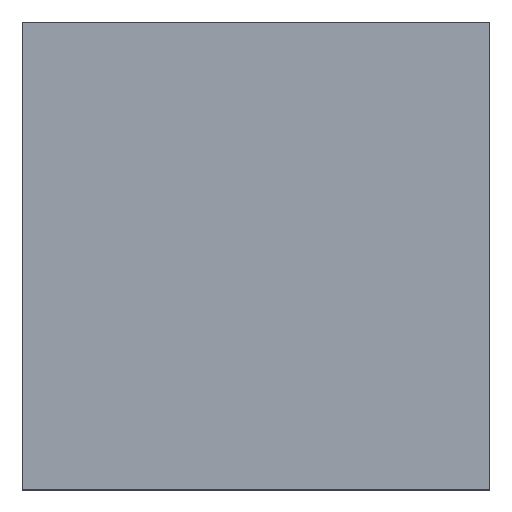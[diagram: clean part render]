
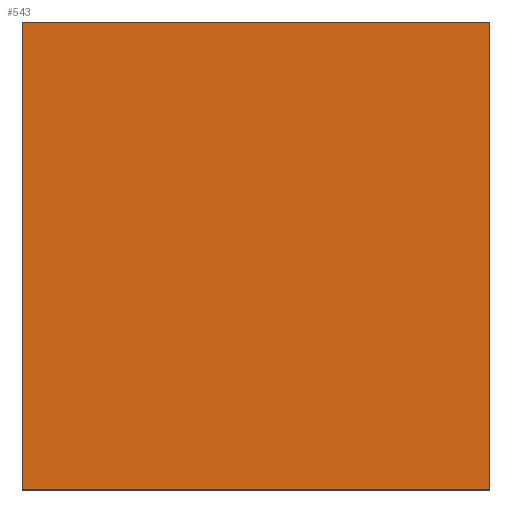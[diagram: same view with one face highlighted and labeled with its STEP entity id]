
A CAD part, top view. The second image highlights one B-rep face of the part: STEP entity #543.
In plain terms, the highlighted planar face has unit normal (0, 0, 1) as drawn and (0, 1, 0) by its records, which use the part's own axes.
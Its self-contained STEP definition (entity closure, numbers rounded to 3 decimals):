
#71=FACE_OUTER_BOUND('',#101,.T.);
#101=EDGE_LOOP('',(#417,#418,#419,#420));
#148=LINE('',#915,#204);
#149=LINE('',#918,#205);
#150=LINE('',#920,#206);
#151=LINE('',#921,#207);
#204=VECTOR('',#749,10.);
#205=VECTOR('',#752,10.);
#206=VECTOR('',#753,10.);
#207=VECTOR('',#754,10.);
#256=VERTEX_POINT('',#909);
#258=VERTEX_POINT('',#913);
#259=VERTEX_POINT('',#917);
#260=VERTEX_POINT('',#919);
#318=EDGE_CURVE('',#256,#258,#148,.T.);
#319=EDGE_CURVE('',#256,#259,#149,.T.);
#320=EDGE_CURVE('',#260,#258,#150,.T.);
#321=EDGE_CURVE('',#259,#260,#151,.T.);
#417=ORIENTED_EDGE('',*,*,#319,.F.);
#418=ORIENTED_EDGE('',*,*,#318,.T.);
#419=ORIENTED_EDGE('',*,*,#320,.F.);
#420=ORIENTED_EDGE('',*,*,#321,.F.);
#516=PLANE('',#651);
#543=ADVANCED_FACE('',(#71),#516,.T.);
#651=AXIS2_PLACEMENT_3D('',#916,#750,#751);
#749=DIRECTION('',(0.,0.,-1.));
#750=DIRECTION('center_axis',(0.,1.,0.));
#751=DIRECTION('ref_axis',(1.,0.,0.));
#752=DIRECTION('',(-1.,0.,0.));
#753=DIRECTION('',(1.,0.,0.));
#754=DIRECTION('',(0.,0.,-1.));
#909=CARTESIAN_POINT('',(20.,20.,0.));
#913=CARTESIAN_POINT('',(20.,20.,-40.));
#915=CARTESIAN_POINT('',(20.,20.,0.));
#916=CARTESIAN_POINT('Origin',(-20.,20.,0.));
#917=CARTESIAN_POINT('',(-20.,20.,0.));
#918=CARTESIAN_POINT('',(20.,20.,0.));
#919=CARTESIAN_POINT('',(-20.,20.,-40.));
#920=CARTESIAN_POINT('',(20.,20.,-40.));
#921=CARTESIAN_POINT('',(-20.,20.,0.));
